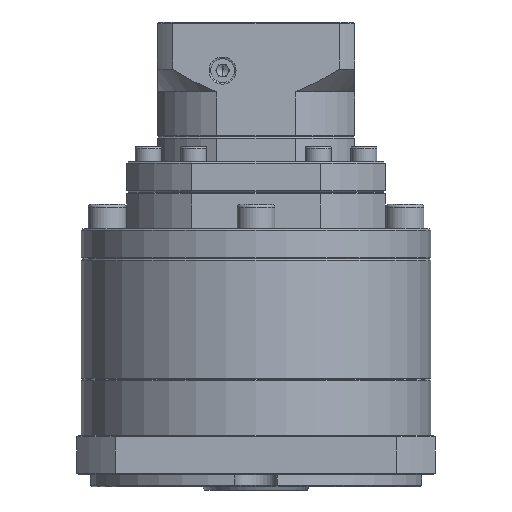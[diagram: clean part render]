
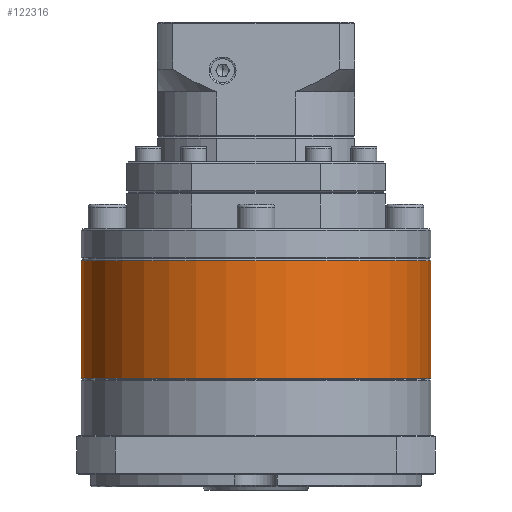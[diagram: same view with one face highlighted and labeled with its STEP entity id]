
A CAD part, front view. The second image highlights one B-rep face of the part: STEP entity #122316.
In plain terms, the highlighted cylindrical face has radius 57.5 mm (diameter 115 mm), a partial arc.
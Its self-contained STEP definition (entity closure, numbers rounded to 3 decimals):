
#2922 = CARTESIAN_POINT ( 'NONE',  ( 67.321, 67.721, -149.611 ) ) ;
#8657 = VERTEX_POINT ( 'NONE', #39083 ) ;
#15741 = CYLINDRICAL_SURFACE ( 'NONE', #29446, 57.5 ) ;
#17368 = FACE_OUTER_BOUND ( 'NONE', #107781, .T. ) ;
#17851 = CARTESIAN_POINT ( 'NONE',  ( 67.321, 67.721, -110.899 ) ) ;
#23885 = EDGE_CURVE ( 'NONE', #83803, #33403, #105513, .T. ) ;
#26293 = CARTESIAN_POINT ( 'NONE',  ( 124.821, 67.721, -110.399 ) ) ;
#27313 = LINE ( 'NONE', #26293, #61059 ) ;
#29446 = AXIS2_PLACEMENT_3D ( 'NONE', #84312, #35316, #63331 ) ;
#31445 = AXIS2_PLACEMENT_3D ( 'NONE', #17851, #76205, #47848 ) ;
#33403 = VERTEX_POINT ( 'NONE', #116770 ) ;
#35316 = DIRECTION ( 'NONE',  ( 0., 0., -1. ) ) ;
#36149 = DIRECTION ( 'NONE',  ( 0., 0., -1. ) ) ;
#37538 = CARTESIAN_POINT ( 'NONE',  ( 9.821, 67.721, -110.399 ) ) ;
#39083 = CARTESIAN_POINT ( 'NONE',  ( 124.821, 67.721, -110.899 ) ) ;
#46002 = EDGE_CURVE ( 'NONE', #33403, #57537, #85268, .T. ) ;
#46860 = ORIENTED_EDGE ( 'NONE', *, *, #46002, .T. ) ;
#47848 = DIRECTION ( 'NONE',  ( -1., 0., 0. ) ) ;
#50485 = ORIENTED_EDGE ( 'NONE', *, *, #52917, .F. ) ;
#52917 = EDGE_CURVE ( 'NONE', #8657, #57537, #27313, .T. ) ;
#57537 = VERTEX_POINT ( 'NONE', #67694 ) ;
#60731 = EDGE_CURVE ( 'NONE', #8657, #83803, #69675, .T. ) ;
#61059 = VECTOR ( 'NONE', #36149, 1000. ) ;
#63331 = DIRECTION ( 'NONE',  ( -1., 0., 0. ) ) ;
#64663 = ORIENTED_EDGE ( 'NONE', *, *, #23885, .T. ) ;
#67694 = CARTESIAN_POINT ( 'NONE',  ( 124.821, 67.721, -149.611 ) ) ;
#69675 = CIRCLE ( 'NONE', #31445, 57.5 ) ;
#72821 = DIRECTION ( 'NONE',  ( -1., 0., 0. ) ) ;
#76205 = DIRECTION ( 'NONE',  ( 0., 0., -1. ) ) ;
#77961 = ORIENTED_EDGE ( 'NONE', *, *, #60731, .T. ) ;
#83803 = VERTEX_POINT ( 'NONE', #126370 ) ;
#84312 = CARTESIAN_POINT ( 'NONE',  ( 67.321, 67.721, -110.399 ) ) ;
#85268 = CIRCLE ( 'NONE', #114817, 57.5 ) ;
#87026 = VECTOR ( 'NONE', #97665, 1000. ) ;
#97665 = DIRECTION ( 'NONE',  ( 0., 0., -1. ) ) ;
#105513 = LINE ( 'NONE', #37538, #87026 ) ;
#107781 = EDGE_LOOP ( 'NONE', ( #50485, #77961, #64663, #46860 ) ) ;
#114817 = AXIS2_PLACEMENT_3D ( 'NONE', #2922, #121481, #72821 ) ;
#116770 = CARTESIAN_POINT ( 'NONE',  ( 9.821, 67.721, -149.611 ) ) ;
#121481 = DIRECTION ( 'NONE',  ( 0., 0., 1. ) ) ;
#122316 = ADVANCED_FACE ( 'NONE', ( #17368 ), #15741, .T. ) ;
#126370 = CARTESIAN_POINT ( 'NONE',  ( 9.821, 67.721, -110.899 ) ) ;
